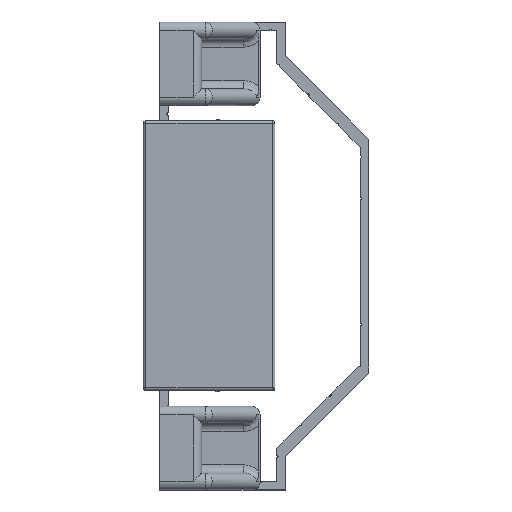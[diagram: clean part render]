
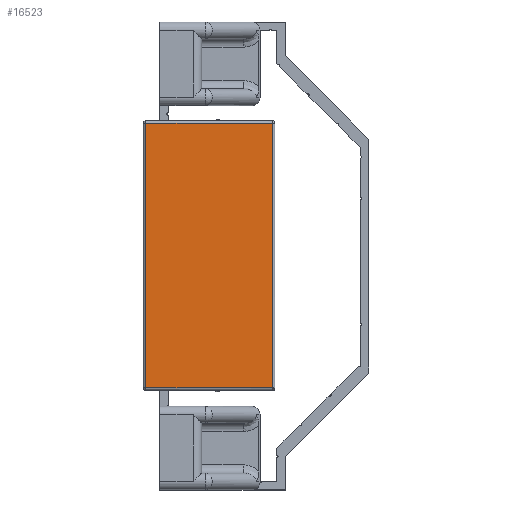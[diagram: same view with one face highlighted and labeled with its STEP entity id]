
A CAD part, top view. The second image highlights one B-rep face of the part: STEP entity #16523.
In plain terms, the highlighted planar face has unit normal (0, 0, 1).
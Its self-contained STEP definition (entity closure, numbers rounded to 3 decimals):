
#678=PLANE('',#17607);
#1533=FACE_OUTER_BOUND('',#2454,.T.);
#2454=EDGE_LOOP('',(#14159,#14160,#14161,#14162));
#4234=LINE('',#25571,#6373);
#4236=LINE('',#25574,#6375);
#4239=LINE('',#25580,#6378);
#4367=LINE('',#25848,#6506);
#6373=VECTOR('',#20558,1000.);
#6375=VECTOR('',#20562,1000.);
#6378=VECTOR('',#20567,1000.);
#6506=VECTOR('',#20817,1000.);
#8087=VERTEX_POINT('',#24967);
#8088=VERTEX_POINT('',#25095);
#8201=VERTEX_POINT('',#25569);
#8203=VERTEX_POINT('',#25579);
#10205=EDGE_CURVE('',#8201,#8087,#4234,.T.);
#10207=EDGE_CURVE('',#8087,#8088,#4236,.T.);
#10210=EDGE_CURVE('',#8088,#8203,#4239,.T.);
#10345=EDGE_CURVE('',#8203,#8201,#4367,.T.);
#14159=ORIENTED_EDGE('',*,*,#10207,.F.);
#14160=ORIENTED_EDGE('',*,*,#10205,.F.);
#14161=ORIENTED_EDGE('',*,*,#10345,.F.);
#14162=ORIENTED_EDGE('',*,*,#10210,.F.);
#16523=ADVANCED_FACE('',(#1533),#678,.F.);
#17607=AXIS2_PLACEMENT_3D('',#25847,#20815,#20816);
#20558=DIRECTION('',(0.,1.,0.));
#20562=DIRECTION('',(1.,0.,0.));
#20567=DIRECTION('',(0.,-1.,0.));
#20815=DIRECTION('center_axis',(0.,0.,
-1.));
#20816=DIRECTION('ref_axis',(0.,1.,0.));
#20817=DIRECTION('',(-1.,0.,0.));
#24967=CARTESIAN_POINT('',(-15.861,9.982,13.076));
#25095=CARTESIAN_POINT('',(15.799,9.982,13.076));
#25569=CARTESIAN_POINT('',(-15.861,-5.168,13.076));
#25571=CARTESIAN_POINT('',(-15.861,-5.468,13.076));
#25574=CARTESIAN_POINT('',(16.099,9.982,13.076));
#25579=CARTESIAN_POINT('',(15.799,-5.168,13.076));
#25580=CARTESIAN_POINT('',(15.799,-5.468,13.076));
#25847=CARTESIAN_POINT('Origin',(16.099,-5.468,13.076));
#25848=CARTESIAN_POINT('',(16.099,-5.168,13.076));
